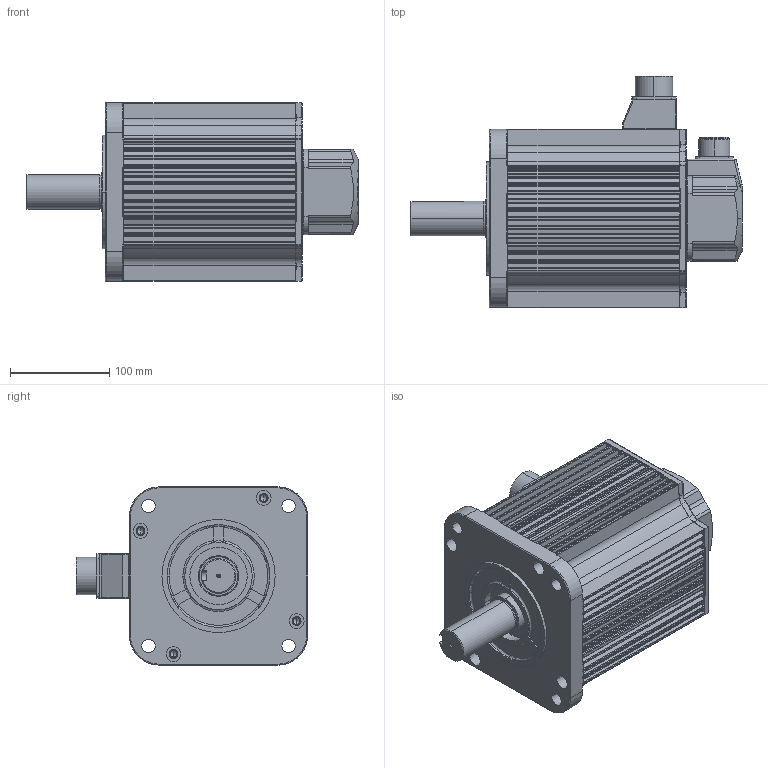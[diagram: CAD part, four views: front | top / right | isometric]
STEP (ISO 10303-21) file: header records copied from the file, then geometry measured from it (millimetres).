
FILE_DESCRIPTION (( 'STEP AP203' ), '1' );
FILE_NAME ('KANH-40B(BR).STEP', '2026-09-12T02:57:43', ( '' ), ( '' ), 'SwSTEP 2.0', 'SolidWorks 2023', '' );
FILE_SCHEMA (( 'CONFIG_CONTROL_DESIGN' ));
Length unit declared in the file: millimetre
Products named in the file (11): 10050908 CONNECTOR BOX_MS22 or MS24; □180-176.5mm(4.0kW,BR,MS24); 10050907 RUBBER SEAL_MS22 or MS24; MS3102A 24_표준; 10050523 GASKET_돌출형; 1005052200 ENCODER COVER; □180 FLANGE; Ø35-KEY10X50; KANH-40B(BR); □180 BRACKET_BR; MS3102A 20-29P
Assembly tree (10 placements, depth 2):
  KANH-40B(BR)
    Ø35-KEY10X50
    □180 FLANGE
    □180-176.5mm(4.0kW,BR,MS24)
    □180 BRACKET_BR
    1005052200 ENCODER COVER
    10050523 GASKET_돌출형
    MS3102A 20-29P
    10050907 RUBBER SEAL_MS22 or MS24
    10050908 CONNECTOR BOX_MS22 or MS24
    MS3102A 24_표준
Bounding box: 335.2 x 233.62 x 180 mm (x, y, z)
Volume: 1635853.4 mm3; surface area: 579700.1 mm2
Topology: 10 solids, 10 shells, 1764 faces, 4830 edges, 3140 vertices
Faces by surface type: cylinder 912, plane 605, torus 122, cone 88, bspline 35, sphere 2
Entity records: 60348 total; most frequent: CARTESIAN_POINT 13359, DIRECTION 10018, ORIENTED_EDGE 9588, EDGE_CURVE 4794, AXIS2_PLACEMENT_3D 3855, VERTEX_POINT 3140, VECTOR 2308, LINE 2308
